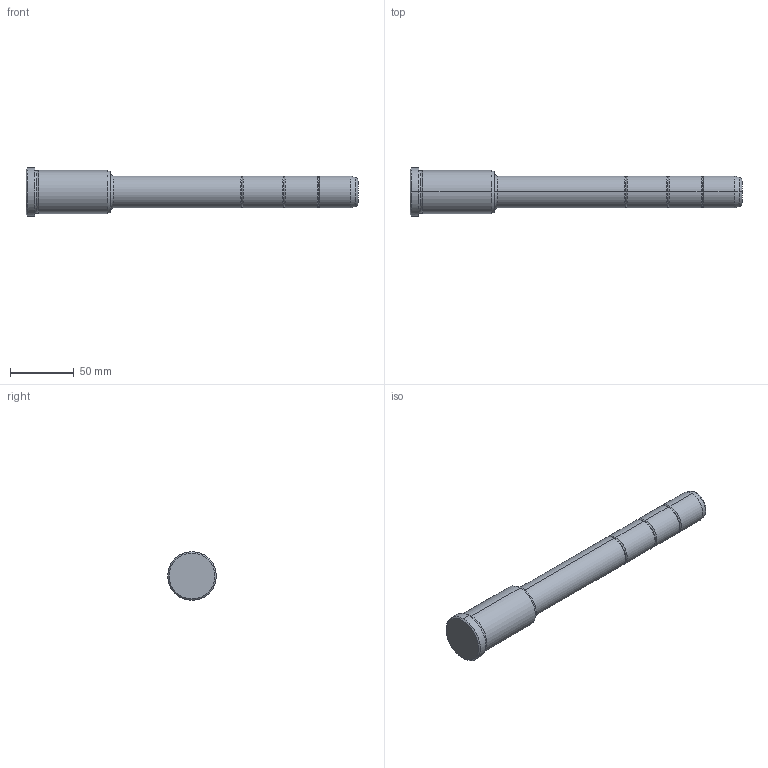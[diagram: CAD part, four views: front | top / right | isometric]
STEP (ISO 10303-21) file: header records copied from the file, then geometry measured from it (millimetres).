
FILE_DESCRIPTION(('CATIA V5 STEP Exchange'),'2;1');
FILE_NAME('C:\Users\Utente\Desktop\IO LAVORO\3D X SITO CF\X SITO\PLASTICA\351\351-25X66X260.stp','2021-09-07T08:40:23+00:00',('none'),('none'),'CATIA Version 5 Release 20 GA (IN-10)','CATIA V5 STEP AP203','none');
FILE_SCHEMA(('CONFIG_CONTROL_DESIGN'));
Length unit declared in the file: millimetre
Products named in the file (1): 351-25X66X260
Bounding box: 260 x 38 x 38 mm (x, y, z)
Volume: 155855.4 mm3; surface area: 24383.9 mm2
Topology: 1 solids, 1 shells, 42 faces, 118 edges, 80 vertices
Faces by surface type: torus 20, cylinder 12, cone 6, plane 4
Entity records: 1472 total; most frequent: CARTESIAN_POINT 353, ORIENTED_EDGE 236, DIRECTION 194, AXIS2_PLACEMENT_3D 135, EDGE_CURVE 118, CIRCLE 92, VERTEX_POINT 80, EDGE_LOOP 44
